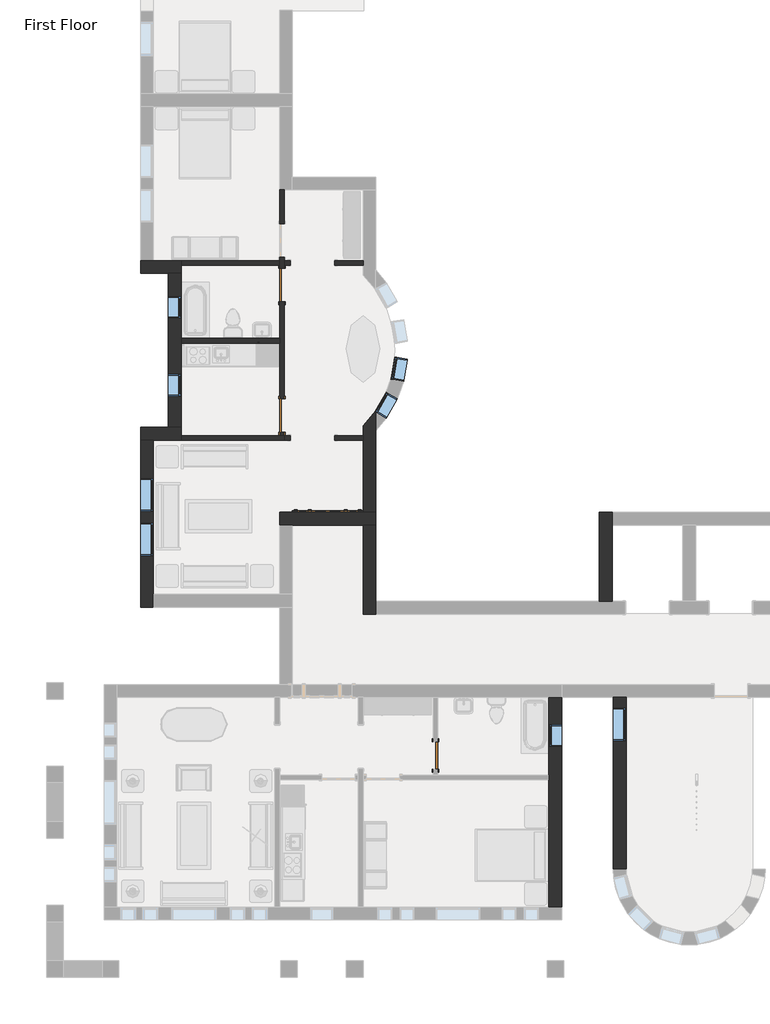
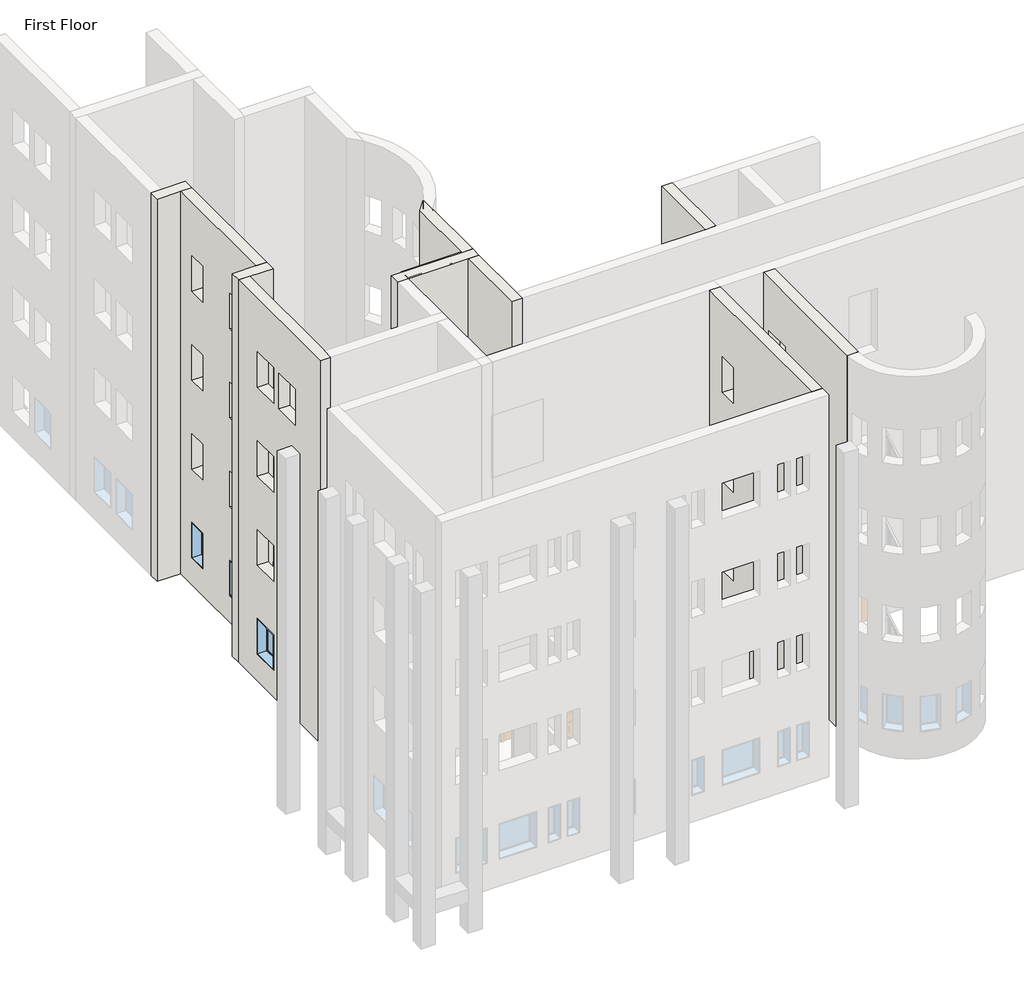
# One storey, part 4 of 21: 17 walls, 8 windows, 4 doors.
"""IFC4 building model written with IfcOpenShell, lengths in millimetres."""

from ifc_helpers import new_model, si_unit, frame, origin, origin_with_axes, place, context, project, spatial, polyline, circle_curve, outline, extrude, faceted_brep, transform, mapped, element, save
from ifc_brep_helpers import plane_surface, revolved_surface, advanced_brep
from components import door_4d6c7550, door_a1797ceb, door_a3eb833a, door_ffdb1193, window_60baf983, window_ed80354a, window_0e2fc6ce

model = new_model("IFC4")

# Units and contexts
model_context = context("Model", 3, world=origin())
ifc_project = project(units=[si_unit("LENGTHUNIT", "METRE", prefix="MILLI")], contexts=[model_context])

# Site, building, storey
site = spatial("IfcSite", under=ifc_project)
building = spatial("IfcBuilding", under=site)
storey = spatial("IfcBuildingStorey", under=building, Name="First Floor", Elevation=0.0)

# Doors
placement = place(None, origin())
door_shape = door_4d6c7550(model_context)
element("IfcDoor", 1, ObjectType="Single-Flush : 30\" x 84\"", at=placement, inside=storey, context=model_context, shape_type="MappedRepresentation", body=[
    mapped(door_shape, transform((-22018.5964563, -29804.8308133, 0.0), x_axis=(0.0, -1.0, 0.0), y_axis=(1.0, 0.0, 0.0), z_axis=(0.0, 0.0, 1.0))),
])
door_2_shape = door_a1797ceb(model_context)
element("IfcDoor", 2, ObjectType="Single-Flush : 36\" x 84\"", at=placement, inside=storey, context=model_context, shape_type="MappedRepresentation", body=[
    mapped(door_2_shape, transform((-26223.8839563, -16914.3308133, 0.0), x_axis=(0.0, 1.0, 0.0), y_axis=(-1.0, 0.0, 0.0), z_axis=(0.0, 0.0, 1.0))),
])
door_3_shape = door_a3eb833a(model_context)
element("IfcDoor", 3, ObjectType="Single-Flush : 36\" x 84\"", at=placement, inside=storey, context=model_context, shape_type="MappedRepresentation", body=[
    mapped(door_3_shape, transform((-26223.8839563, -20492.5558133, 0.0), x_axis=(0.0, -1.0, 0.0), y_axis=(1.0, 0.0, 0.0), z_axis=(0.0, 0.0, 1.0))),
])
door_4_shape = door_ffdb1193(model_context)
element("IfcDoor", 4, ObjectType="Single-Raised Panel with Sidelights : 36\" x 84\"", at=placement, inside=storey, context=model_context, shape_type="MappedRepresentation", body=[
    mapped(door_4_shape, transform((-24968.1714563, -23275.4433133, 0.0), x_axis=(1.0, 0.0, 0.0), y_axis=(0.0, 1.0, 0.0), z_axis=(0.0, 0.0, 1.0))),
])

# Walls
element("IfcWall", 5, ObjectType="Exterior - Brick on Mtl. Stud", at=placement, inside=storey, context=model_context, shape_type="Brep", body=[
    faceted_brep([(-17171.9589563, -25578.9058133, 0.0), (-17171.9589563, -23492.9308133, 0.0), (-17171.9589563, -23140.5058133, 0.0), (-17171.9589563, -23140.5058133, 13106.4), (-17171.9589563, -23492.9308133, 13106.4), (-17171.9589563, -25578.9058133, 13106.4), (-17524.3839563, -25578.9058133, 0.0), (-17524.3839563, -25578.9058133, 13106.4), (-17524.3839563, -23140.5058133, 13106.4), (-17524.3839563, -23140.5058133, 0.0)], [[[0, 1, 2, 3, 4, 5]], [[6, 7, 8, 9]], [[2, 1, 0, 6, 9]], [[5, 4, 3, 8, 7]], [[3, 2, 9, 8]], [[0, 5, 7, 6]]]),
])
element("IfcWall", 6, ObjectType="Exterior - Brick on Mtl. Stud", at=placement, inside=storey, context=model_context, shape_type="SweptSolid", body=[
    extrude(outline(polyline([(-28217.3308133, 0.0), (-32917.9183133, 0.0), (-32917.9183133, 13106.4), (-28217.3308133, 13106.4), (-28217.3308133, 0.0)]), holes=[polyline([(-28498.3183133, 8229.6), (-29412.7183133, 8229.6), (-29412.7183133, 7010.4), (-28498.3183133, 7010.4), (-28498.3183133, 8229.6)]), polyline([(-28498.3183133, 5181.6), (-29412.7183133, 5181.6), (-29412.7183133, 3962.4), (-28498.3183133, 3962.4), (-28498.3183133, 5181.6)]), polyline([(-28498.3183133, 11277.6), (-29412.7183133, 11277.6), (-29412.7183133, 10058.4), (-28498.3183133, 10058.4), (-28498.3183133, 11277.6)]), polyline([(-28498.3183133, 2133.6), (-29412.7183133, 2133.6), (-29412.7183133, 914.4), (-28498.3183133, 914.4), (-28498.3183133, 2133.6)])]), frame((-17143.3839563, 0.0, 0.0), z_axis=(1.0, 0.0, 0.0), x_axis=(0.0, 1.0, 0.0)), (0.0, 0.0, 1.0), 352.425),
])
element("IfcWall", 7, ObjectType="Exterior - Brick on Mtl. Stud", at=placement, inside=storey, context=model_context, shape_type="Brep", body=[
    faceted_brep([(-26287.3839563, -23492.9308133, 0.0), (-25934.9589563, -23492.9308133, 0.0), (-24001.3839563, -23492.9308133, 0.0), (-23648.9589563, -23492.9308133, 0.0), (-23648.9589563, -23492.9308133, 13106.4), (-24001.3839563, -23492.9308133, 13106.4), (-25934.9589563, -23492.9308133, 13106.4), (-26287.3839563, -23492.9308133, 13106.4), (-26287.3839563, -23140.5058133, 0.0), (-26287.3839563, -23140.5058133, 13106.4), (-24001.3839563, -23140.5058133, 13106.4), (-23648.9589563, -23140.5058133, 13106.4), (-23648.9589563, -23140.5058133, 0.0), (-24001.3839563, -23140.5058133, 0.0)], [[[0, 1, 2, 3, 4, 5, 6, 7]], [[8, 9, 10, 11, 12, 13]], [[3, 2, 1, 0, 8, 13, 12]], [[7, 6, 5, 4, 11, 10, 9]], [[4, 3, 12, 11]], [[0, 7, 9, 8]]]),
])
element("IfcWall", 8, ObjectType="Exterior - Brick on Mtl. Stud", at=placement, inside=storey, context=model_context, shape_type="Brep", body=[
    faceted_brep([(-23648.9589563, -25931.3308133, 0.0), (-23648.9589563, -25578.9058133, 0.0), (-23648.9589563, -23492.9308133, 0.0), (-23648.9589563, -23492.9308133, 13106.4), (-23648.9589563, -25578.9058133, 13106.4), (-23648.9589563, -25931.3308133, 13106.4), (-24001.3839563, -25931.3308133, 0.0), (-24001.3839563, -25931.3308133, 13106.4), (-24001.3839563, -23492.9308133, 13106.4), (-24001.3839563, -23492.9308133, 0.0)], [[[0, 1, 2, 3, 4, 5]], [[6, 7, 8, 9]], [[2, 1, 0, 6, 9]], [[5, 4, 3, 8, 7]], [[0, 5, 7, 6]], [[3, 2, 9, 8]]]),
])
element("IfcWall", 9, ObjectType="Exterior - Brick on Mtl. Stud", at=placement, inside=storey, context=model_context, shape_type="Brep", body=[
    faceted_brep([(-18907.0964563, -28217.3308133, 0.0), (-18907.0964563, -30350.9308133, 0.0), (-18907.0964563, -30477.9308133, 0.0), (-18907.0964563, -33960.9058133, 0.0), (-18907.0964563, -33960.9058133, 13106.4), (-18907.0964563, -28217.3308133, 13106.4), (-18907.0964563, -28955.5183133, 8229.6), (-18907.0964563, -29565.1183133, 8229.6), (-18907.0964563, -29565.1183133, 7010.4), (-18907.0964563, -28955.5183133, 7010.4), (-18907.0964563, -28955.5183133, 5181.6), (-18907.0964563, -29565.1183133, 5181.6), (-18907.0964563, -29565.1183133, 3962.4), (-18907.0964563, -28955.5183133, 3962.4), (-18907.0964563, -28955.5183133, 11277.6), (-18907.0964563, -29565.1183133, 11277.6), (-18907.0964563, -29565.1183133, 10058.4), (-18907.0964563, -28955.5183133, 10058.4), (-18907.0964563, -28955.5183133, 2133.6), (-18907.0964563, -29565.1183133, 2133.6), (-18907.0964563, -29565.1183133, 914.4), (-18907.0964563, -28955.5183133, 914.4), (-18554.6714563, -28217.3308133, 0.0), (-18554.6714563, -28217.3308133, 13106.4), (-18554.6714563, -33960.9058133, 13106.4), (-18554.6714563, -33960.9058133, 0.0), (-18554.6714563, -28955.5183133, 8229.6), (-18554.6714563, -28955.5183133, 7010.4), (-18554.6714563, -29565.1183133, 7010.4), (-18554.6714563, -29565.1183133, 8229.6), (-18554.6714563, -28955.5183133, 5181.6), (-18554.6714563, -28955.5183133, 3962.4), (-18554.6714563, -29565.1183133, 3962.4), (-18554.6714563, -29565.1183133, 5181.6), (-18554.6714563, -28955.5183133, 11277.6), (-18554.6714563, -28955.5183133, 10058.4), (-18554.6714563, -29565.1183133, 10058.4), (-18554.6714563, -29565.1183133, 11277.6), (-18554.6714563, -28955.5183133, 2133.6), (-18554.6714563, -28955.5183133, 914.4), (-18554.6714563, -29565.1183133, 914.4), (-18554.6714563, -29565.1183133, 2133.6), (-18741.9964563, -28217.3308133, 0.0), (-18741.9964563, -33960.9058133, 0.0)], [[[0, 1, 2, 3, 4, 5], [6, 7, 8, 9], [10, 11, 12, 13], [14, 15, 16, 17], [18, 19, 20, 21]], [[22, 23, 24, 25], [26, 27, 28, 29], [30, 31, 32, 33], [34, 35, 36, 37], [38, 39, 40, 41]], [[5, 4, 24, 23]], [[0, 5, 23, 22, 42]], [[4, 3, 43, 25, 24]], [[42, 22, 25, 43]], [[3, 2, 1, 0, 42, 43]], [[27, 26, 6, 9]], [[28, 27, 9, 8]], [[29, 28, 8, 7]], [[26, 29, 7, 6]], [[31, 30, 10, 13]], [[32, 31, 13, 12]], [[33, 32, 12, 11]], [[30, 33, 11, 10]], [[35, 34, 14, 17]], [[36, 35, 17, 16]], [[37, 36, 16, 15]], [[34, 37, 15, 14]], [[39, 38, 18, 21]], [[40, 39, 21, 20]], [[41, 40, 20, 19]], [[38, 41, 19, 18]]]),
])
element("IfcWall", 10, ObjectType="Exterior - Brick on Mtl. Stud", at=placement, inside=storey, context=model_context, shape_type="Brep", body=[
    faceted_brep([(-24129.9714563, -23451.6558133, 2133.6), (-24129.9714563, -23451.6558133, 0.0), (-24001.3839563, -23451.6558133, 0.0), (-24001.3839563, -23451.6558133, 13106.4), (-25934.9589563, -23451.6558133, 13106.4), (-25934.9589563, -23451.6558133, 0.0), (-25806.3714563, -23451.6558133, 0.0), (-25806.3714563, -23451.6558133, 2133.6), (-25806.3714563, -23451.6558133, 6096.0), (-25806.3714563, -23451.6558133, 8229.6), (-24129.9714563, -23451.6558133, 8229.6), (-24129.9714563, -23451.6558133, 6096.0), (-25806.3714563, -23451.6558133, 3048.0), (-25806.3714563, -23451.6558133, 5181.6), (-24129.9714563, -23451.6558133, 5181.6), (-24129.9714563, -23451.6558133, 3048.0), (-25806.3714563, -23451.6558133, 9144.0), (-25806.3714563, -23451.6558133, 11277.6), (-24129.9714563, -23451.6558133, 11277.6), (-24129.9714563, -23451.6558133, 9144.0), (-24001.3839563, -23099.2308133, 0.0), (-24129.9714563, -23099.2308133, 0.0), (-24129.9714563, -23099.2308133, 2133.6), (-25806.3714563, -23099.2308133, 2133.6), (-25806.3714563, -23099.2308133, 0.0), (-25934.9589563, -23099.2308133, 0.0), (-25934.9589563, -23099.2308133, 13106.4), (-24001.3839563, -23099.2308133, 13106.4), (-25806.3714563, -23099.2308133, 6096.0), (-24129.9714563, -23099.2308133, 6096.0), (-24129.9714563, -23099.2308133, 8229.6), (-25806.3714563, -23099.2308133, 8229.6), (-25806.3714563, -23099.2308133, 3048.0), (-24129.9714563, -23099.2308133, 3048.0), (-24129.9714563, -23099.2308133, 5181.6), (-25806.3714563, -23099.2308133, 5181.6), (-25806.3714563, -23099.2308133, 9144.0), (-24129.9714563, -23099.2308133, 9144.0), (-24129.9714563, -23099.2308133, 11277.6), (-25806.3714563, -23099.2308133, 11277.6), (-24001.3839563, -23140.5058133, 0.0), (-24001.3839563, -23140.5058133, 13106.4)], [[[0, 1, 2, 3, 4, 5, 6, 7], [8, 9, 10, 11], [12, 13, 14, 15], [16, 17, 18, 19]], [[20, 21, 22, 23, 24, 25, 26, 27], [28, 29, 30, 31], [32, 33, 34, 35], [36, 37, 38, 39]], [[2, 1, 21, 20, 40]], [[6, 5, 25, 24]], [[4, 3, 41, 27, 26]], [[3, 2, 40, 20, 27, 41]], [[5, 4, 26, 25]], [[22, 21, 1, 0]], [[23, 22, 0, 7]], [[24, 23, 7, 6]], [[29, 28, 8, 11]], [[30, 29, 11, 10]], [[31, 30, 10, 9]], [[28, 31, 9, 8]], [[33, 32, 12, 15]], [[34, 33, 15, 14]], [[35, 34, 14, 13]], [[32, 35, 13, 12]], [[37, 36, 16, 19]], [[38, 37, 19, 18]], [[39, 38, 18, 17]], [[36, 39, 17, 16]]]),
])
element("IfcWall", 11, ObjectType="Exterior - Brick on Mtl. Stud", at=placement, inside=storey, context=model_context, shape_type="AdvancedBrep", body=[
    advanced_brep(
    [(-23648.9589563, -23140.5058133, 0.0), (-23648.9589563, -20907.8285473, 0.0), (-23648.9589563, -20349.9339631, 0.0), (-23648.9589563, -20349.9339631, 914.4), (-23648.9589563, -20399.222211, 914.4), (-23648.9589563, -20399.222211, 2133.6), (-23648.9589563, -20349.9339631, 2133.6), (-23648.9589563, -20349.9339631, 3962.4), (-23648.9589563, -20399.222211, 3962.4), (-23648.9589563, -20399.222211, 5181.6), (-23648.9589563, -20349.9339631, 5181.6), (-23648.9589563, -20349.9339631, 7010.4), (-23648.9589563, -20399.222211, 7010.4), (-23648.9589563, -20399.222211, 8229.6), (-23648.9589563, -20349.9339631, 8229.6), (-23648.9589563, -20349.9339631, 10058.4), (-23648.9589563, -20399.222211, 10058.4), (-23648.9589563, -20399.222211, 11277.6), (-23648.9589563, -20349.9339631, 11277.6), (-23648.9589563, -20349.9339631, 13106.4), (-23648.9589563, -20907.8285473, 13106.4), (-23648.9589563, -23140.5058133, 13106.4), (-24001.3839563, -20763.827661, 0.0), (-24001.3839563, -21038.6558133, 0.0), (-24001.3839563, -21165.6558133, 0.0), (-24001.3839563, -23099.2308133, 0.0), (-24001.3839563, -23140.5058133, 0.0), (-24001.3839563, -23140.5058133, 13106.4), (-24001.3839563, -23099.2308133, 13106.4), (-24001.3839563, -20763.827661, 13106.4), (-23654.428547, -20357.7227821, 11277.6), (-23654.428547, -20357.7227821, 10058.4), (-23654.428547, -20357.7227821, 8229.6), (-23654.428547, -20357.7227821, 7010.4), (-23654.428547, -20357.7227821, 5181.6), (-23654.428547, -20357.7227821, 3962.4), (-23654.428547, -20357.7227821, 2133.6), (-23654.428547, -20357.7227821, 914.4), (-23670.9598455, -20386.6485215, 2133.6), (-23670.9598455, -20386.6485215, 914.4), (-23670.9598455, -20386.6485215, 11277.6), (-23670.9598455, -20386.6485215, 10058.4), (-23670.9598455, -20386.6485215, 5181.6), (-23670.9598455, -20386.6485215, 3962.4), (-23670.9598455, -20386.6485215, 8229.6), (-23670.9598455, -20386.6485215, 7010.4)],
    [
        (0, 1),
        (1, 2),
        (2, 3),
        (3, 4),
        (4, 5),
        (5, 6),
        (6, 7),
        (7, 8),
        (8, 9),
        (9, 10),
        (10, 11),
        (11, 12),
        (12, 13),
        (13, 14),
        (14, 15),
        (15, 16),
        (16, 17),
        (17, 18),
        (18, 19),
        (19, 20),
        (20, 21),
        (21, 0),
        (22, 23),
        (23, 24),
        (24, 25),
        (25, 26),
        (26, 27),
        (27, 28),
        (28, 29),
        (29, 22),
        (0, 26),
        (22, 2, circle_curve(frame((-26001.8788413, -18703.4433133, 0.0), z_axis=(0.0, 0.0, 1.0), x_axis=(0.0, -1.0, 0.0)), 2871.7875)),
        (19, 29, circle_curve(frame((-26001.8788413, -18703.4433133, 13106.4), z_axis=(0.0, 0.0, -1.0), x_axis=(0.0, -1.0, 0.0)), 2871.7875)),
        (27, 21),
        (18, 30, circle_curve(frame((-26001.8788413, -18703.4433133, 11277.6), z_axis=(0.0, 0.0, -1.0), x_axis=(0.0, -1.0, 0.0)), 2871.7875)),
        (30, 31),
        (31, 15, circle_curve(frame((-26001.8788413, -18703.4433133, 10058.4), z_axis=(0.0, 0.0, 1.0), x_axis=(0.0, -1.0, 0.0)), 2871.7875)),
        (14, 32, circle_curve(frame((-26001.8788413, -18703.4433133, 8229.6), z_axis=(0.0, 0.0, -1.0), x_axis=(0.0, -1.0, 0.0)), 2871.7875)),
        (32, 33),
        (33, 11, circle_curve(frame((-26001.8788413, -18703.4433133, 7010.4), z_axis=(0.0, 0.0, 1.0), x_axis=(0.0, -1.0, 0.0)), 2871.7875)),
        (10, 34, circle_curve(frame((-26001.8788413, -18703.4433133, 5181.6), z_axis=(0.0, 0.0, -1.0), x_axis=(0.0, -1.0, 0.0)), 2871.7875)),
        (34, 35),
        (35, 7, circle_curve(frame((-26001.8788413, -18703.4433133, 3962.4), z_axis=(0.0, 0.0, 1.0), x_axis=(0.0, -1.0, 0.0)), 2871.7875)),
        (6, 36, circle_curve(frame((-26001.8788413, -18703.4433133, 2133.6), z_axis=(0.0, 0.0, -1.0), x_axis=(0.0, -1.0, 0.0)), 2871.7875)),
        (36, 37),
        (37, 3, circle_curve(frame((-26001.8788413, -18703.4433133, 914.4), z_axis=(0.0, 0.0, 1.0), x_axis=(0.0, -1.0, 0.0)), 2871.7875)),
        (38, 39),
        (39, 37),
        (36, 38),
        (39, 4),
        (38, 5),
        (40, 41),
        (41, 31),
        (30, 40),
        (41, 16),
        (40, 17),
        (42, 43),
        (43, 35),
        (34, 42),
        (43, 8),
        (42, 9),
        (44, 45),
        (45, 33),
        (32, 44),
        (45, 12),
        (44, 13),
    ],
    [
        plane_surface(frame((-23648.9589563, -23275.4433133, 0.0), z_axis=(1.0, 0.0, 0.0), x_axis=(0.0, 1.0, 0.0))),
        plane_surface(frame((-24001.3839563, -23275.4433133, 0.0), z_axis=(-1.0, 0.0, 0.0), x_axis=(0.0, -1.0, 0.0))),
        plane_surface(frame((-23648.9589563, -23296.0808133, 0.0), z_axis=(0.0, 0.0, -1.0), x_axis=(-1.0, 0.0, 0.0))),
        plane_surface(frame((-23648.9589563, -20837.0433133, 13106.4), z_axis=(0.0, 0.0, 1.0), x_axis=(-1.0, 0.0, 0.0))),
        revolved_surface(polyline([(-26001.8788413, -21575.230813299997, 0.0), (-26001.8788413, -21575.230813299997, 13106.4)]), (-26001.8788413, -18703.4433133, 0.0), (0.0, 0.0, -1.0)),
        plane_surface(frame((-26111.1714563, -23140.5058133, 0.0), z_axis=(0.0, -1.0, 0.0), x_axis=(-1.0, 0.0, 0.0))),
        plane_surface(frame((-23368.4817613, -19857.3856675, 2133.6), z_axis=(0.8682133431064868, -0.49619108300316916, 0.0), x_axis=(0.0, 0.0, -1.0))),
        plane_surface(frame((-23368.4817613, -19857.3856675, 914.4), z_axis=(0.0, 0.0, 1.0), x_axis=(0.8682133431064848, -0.4961910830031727, 0.0))),
        plane_surface(frame((-23670.9598455, -20386.6485215, 914.4), z_axis=(0.4961910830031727, 0.8682133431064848, 0.0), x_axis=(0.8682133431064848, -0.4961910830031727, 0.0))),
        plane_surface(frame((-23670.9598455, -20386.6485215, 2133.6), z_axis=(0.0, 0.0, -1.0), x_axis=(0.8682133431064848, -0.4961910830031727, 0.0))),
        plane_surface(frame((-23368.4817613, -19857.3856675, 11277.6), z_axis=(0.8682133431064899, -0.49619108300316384, 0.0), x_axis=(0.0, 0.0, -1.0))),
        plane_surface(frame((-23368.4817613, -19857.3856675, 10058.4), z_axis=(0.0, 0.0, 1.0), x_axis=(0.8682133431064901, -0.49619108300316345, 0.0))),
        plane_surface(frame((-23670.9598455, -20386.6485215, 10058.4), z_axis=(0.49619108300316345, 0.8682133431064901, 0.0), x_axis=(0.8682133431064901, -0.49619108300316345, 0.0))),
        plane_surface(frame((-23670.9598455, -20386.6485215, 11277.6), z_axis=(0.0, 0.0, -1.0), x_axis=(0.8682133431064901, -0.49619108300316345, 0.0))),
        plane_surface(frame((-23368.4817613, -19857.3856675, 5181.6), z_axis=(0.8682133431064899, -0.49619108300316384, 0.0), x_axis=(0.0, 0.0, -1.0))),
        plane_surface(frame((-23368.4817613, -19857.3856675, 3962.4), z_axis=(0.0, 0.0, 1.0), x_axis=(0.8682133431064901, -0.49619108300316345, 0.0))),
        plane_surface(frame((-23670.9598455, -20386.6485215, 3962.4), z_axis=(0.49619108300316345, 0.8682133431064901, 0.0), x_axis=(0.8682133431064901, -0.49619108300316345, 0.0))),
        plane_surface(frame((-23670.9598455, -20386.6485215, 5181.6), z_axis=(0.0, 0.0, -1.0), x_axis=(0.8682133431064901, -0.49619108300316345, 0.0))),
        plane_surface(frame((-23368.4817613, -19857.3856675, 8229.6), z_axis=(0.8682133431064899, -0.49619108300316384, 0.0), x_axis=(0.0, 0.0, -1.0))),
        plane_surface(frame((-23368.4817613, -19857.3856675, 7010.4), z_axis=(0.0, 0.0, 1.0), x_axis=(0.8682133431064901, -0.49619108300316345, 0.0))),
        plane_surface(frame((-23670.9598455, -20386.6485215, 7010.4), z_axis=(0.49619108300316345, 0.8682133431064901, 0.0), x_axis=(0.8682133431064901, -0.49619108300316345, 0.0))),
        plane_surface(frame((-23670.9598455, -20386.6485215, 8229.6), z_axis=(0.0, 0.0, -1.0), x_axis=(0.8682133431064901, -0.49619108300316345, 0.0))),
    ],
    [
        (0, [[1, 2, 3, 4, 5, 6, 7, 8, 9, 10, 11, 12, 13, 14, 15, 16, 17, 18, 19, 20, 21, 22]]),
        (1, [[23, 24, 25, 26, 27, 28, 29, 30]]),
        (2, [[-2, -1, 31, -26, -25, -24, -23, 32]]),
        (3, [[-21, -20, 33, -29, -28, 34]]),
        (4, [[-32, -30, -33, -19, 35, 36, 37, -15, 38, 39, 40, -11, 41, 42, 43, -7, 44, 45, 46, -3]]),
        (5, [[-22, -34, -27, -31]]),
        (6, [[47, 48, -45, 49]]),
        (7, [[50, -4, -46, -48]]),
        (8, [[-47, 51, -5, -50]]),
        (9, [[-51, -49, -44, -6]]),
        (10, [[52, 53, -36, 54]]),
        (11, [[55, -16, -37, -53]]),
        (12, [[-52, 56, -17, -55]]),
        (13, [[-56, -54, -35, -18]]),
        (14, [[57, 58, -42, 59]]),
        (15, [[60, -8, -43, -58]]),
        (16, [[-57, 61, -9, -60]]),
        (17, [[-61, -59, -41, -10]]),
        (18, [[62, 63, -39, 64]]),
        (19, [[65, -12, -40, -63]]),
        (20, [[-62, 66, -13, -65]]),
        (21, [[-66, -64, -38, -14]]),
    ],
),
])
element("IfcWall", 12, ObjectType="Exterior - Brick on Mtl. Stud", at=placement, inside=storey, context=model_context, shape_type="Brep", body=[
    faceted_brep([(-30097.3839563, -16593.6558133, 0.0), (-29335.3839563, -16593.6558133, 0.0), (-28982.9589563, -16593.6558133, 0.0), (-28982.9589563, -16593.6558133, 13106.4), (-29335.3839563, -16593.6558133, 13106.4), (-30097.3839563, -16593.6558133, 13106.4), (-30097.3839563, -16241.2308133, 0.0), (-30097.3839563, -16241.2308133, 13106.4), (-29744.9589563, -16241.2308133, 13106.4), (-28982.9589563, -16241.2308133, 13106.4), (-28982.9589563, -16241.2308133, 3048.0), (-28982.9589563, -16241.2308133, 0.0), (-29744.9589563, -16241.2308133, 0.0), (-28982.9589563, -16368.2308133, 0.0)], [[[0, 1, 2, 3, 4, 5]], [[6, 7, 8, 9, 10, 11, 12]], [[2, 1, 0, 6, 12, 11, 13]], [[5, 4, 3, 9, 8, 7]], [[0, 5, 7, 6]], [[2, 13, 11, 10, 9, 3]]]),
])
element("IfcWall", 13, ObjectType="Exterior - Brick on Mtl. Stud", at=placement, inside=storey, context=model_context, shape_type="Brep", body=[
    faceted_brep([(-29335.3839563, -16593.6558133, 0.0), (-29335.3839563, -20813.2308133, 0.0), (-29335.3839563, -20813.2308133, 13106.4), (-29335.3839563, -16593.6558133, 13106.4), (-29335.3839563, -17219.1308133, 8229.6), (-29335.3839563, -17828.7308133, 8229.6), (-29335.3839563, -17828.7308133, 7010.4), (-29335.3839563, -17219.1308133, 7010.4), (-29335.3839563, -19352.7308133, 8229.6), (-29335.3839563, -19962.3308133, 8229.6), (-29335.3839563, -19962.3308133, 7010.4), (-29335.3839563, -19352.7308133, 7010.4), (-29335.3839563, -17219.1308133, 5181.6), (-29335.3839563, -17828.7308133, 5181.6), (-29335.3839563, -17828.7308133, 3962.4), (-29335.3839563, -17219.1308133, 3962.4), (-29335.3839563, -19352.7308133, 5181.6), (-29335.3839563, -19962.3308133, 5181.6), (-29335.3839563, -19962.3308133, 3962.4), (-29335.3839563, -19352.7308133, 3962.4), (-29335.3839563, -17219.1308133, 11277.6), (-29335.3839563, -17828.7308133, 11277.6), (-29335.3839563, -17828.7308133, 10058.4), (-29335.3839563, -17219.1308133, 10058.4), (-29335.3839563, -19352.7308133, 11277.6), (-29335.3839563, -19962.3308133, 11277.6), (-29335.3839563, -19962.3308133, 10058.4), (-29335.3839563, -19352.7308133, 10058.4), (-29335.3839563, -17219.1308133, 2133.6), (-29335.3839563, -17828.7308133, 2133.6), (-29335.3839563, -17828.7308133, 914.4), (-29335.3839563, -17219.1308133, 914.4), (-29335.3839563, -19352.7308133, 2133.6), (-29335.3839563, -19962.3308133, 2133.6), (-29335.3839563, -19962.3308133, 914.4), (-29335.3839563, -19352.7308133, 914.4), (-28982.9589563, -16593.6558133, 0.0), (-28982.9589563, -16593.6558133, 13106.4), (-28982.9589563, -20813.2308133, 13106.4), (-28982.9589563, -20813.2308133, 0.0), (-28982.9589563, -18501.8308133, 0.0), (-28982.9589563, -18374.8308133, 0.0), (-28982.9589563, -17219.1308133, 8229.6), (-28982.9589563, -17219.1308133, 7010.4), (-28982.9589563, -17828.7308133, 7010.4), (-28982.9589563, -17828.7308133, 8229.6), (-28982.9589563, -19352.7308133, 8229.6), (-28982.9589563, -19352.7308133, 7010.4), (-28982.9589563, -19962.3308133, 7010.4), (-28982.9589563, -19962.3308133, 8229.6), (-28982.9589563, -17219.1308133, 5181.6), (-28982.9589563, -17219.1308133, 3962.4), (-28982.9589563, -17828.7308133, 3962.4), (-28982.9589563, -17828.7308133, 5181.6), (-28982.9589563, -19352.7308133, 5181.6), (-28982.9589563, -19352.7308133, 3962.4), (-28982.9589563, -19962.3308133, 3962.4), (-28982.9589563, -19962.3308133, 5181.6), (-28982.9589563, -17219.1308133, 11277.6), (-28982.9589563, -17219.1308133, 10058.4), (-28982.9589563, -17828.7308133, 10058.4), (-28982.9589563, -17828.7308133, 11277.6), (-28982.9589563, -19352.7308133, 11277.6), (-28982.9589563, -19352.7308133, 10058.4), (-28982.9589563, -19962.3308133, 10058.4), (-28982.9589563, -19962.3308133, 11277.6), (-28982.9589563, -17219.1308133, 2133.6), (-28982.9589563, -17219.1308133, 914.4), (-28982.9589563, -17828.7308133, 914.4), (-28982.9589563, -17828.7308133, 2133.6), (-28982.9589563, -19352.7308133, 2133.6), (-28982.9589563, -19352.7308133, 914.4), (-28982.9589563, -19962.3308133, 914.4), (-28982.9589563, -19962.3308133, 2133.6)], [[[0, 1, 2, 3], [4, 5, 6, 7], [8, 9, 10, 11], [12, 13, 14, 15], [16, 17, 18, 19], [20, 21, 22, 23], [24, 25, 26, 27], [28, 29, 30, 31], [32, 33, 34, 35]], [[36, 37, 38, 39, 40, 41], [42, 43, 44, 45], [46, 47, 48, 49], [50, 51, 52, 53], [54, 55, 56, 57], [58, 59, 60, 61], [62, 63, 64, 65], [66, 67, 68, 69], [70, 71, 72, 73]], [[1, 0, 36, 41, 40, 39]], [[3, 2, 38, 37]], [[0, 3, 37, 36]], [[2, 1, 39, 38]], [[43, 42, 4, 7]], [[44, 43, 7, 6]], [[45, 44, 6, 5]], [[42, 45, 5, 4]], [[47, 46, 8, 11]], [[48, 47, 11, 10]], [[49, 48, 10, 9]], [[46, 49, 9, 8]], [[51, 50, 12, 15]], [[52, 51, 15, 14]], [[53, 52, 14, 13]], [[50, 53, 13, 12]], [[55, 54, 16, 19]], [[56, 55, 19, 18]], [[57, 56, 18, 17]], [[54, 57, 17, 16]], [[59, 58, 20, 23]], [[60, 59, 23, 22]], [[61, 60, 22, 21]], [[58, 61, 21, 20]], [[63, 62, 24, 27]], [[64, 63, 27, 26]], [[65, 64, 26, 25]], [[62, 65, 25, 24]], [[67, 66, 28, 31]], [[68, 67, 31, 30]], [[69, 68, 30, 29]], [[66, 69, 29, 28]], [[71, 70, 32, 35]], [[72, 71, 35, 34]], [[73, 72, 34, 33]], [[70, 73, 33, 32]]]),
])
element("IfcWall", 14, ObjectType="Exterior - Brick on Mtl. Stud", at=placement, inside=storey, context=model_context, shape_type="Brep", body=[
    faceted_brep([(-28982.9589563, -20813.2308133, 13106.4), (-28982.9589563, -20813.2308133, 0.0), (-29335.3839563, -20813.2308133, 0.0), (-30097.3839563, -20813.2308133, 0.0), (-30097.3839563, -20813.2308133, 13106.4), (-29335.3839563, -20813.2308133, 13106.4), (-28982.9589563, -21165.6558133, 0.0), (-28982.9589563, -21165.6558133, 3048.0), (-28982.9589563, -21165.6558133, 13106.4), (-29744.9589563, -21165.6558133, 13106.4), (-30097.3839563, -21165.6558133, 13106.4), (-30097.3839563, -21165.6558133, 0.0), (-29744.9589563, -21165.6558133, 0.0), (-28982.9589563, -21038.6558133, 0.0)], [[[0, 1, 2, 3, 4, 5]], [[6, 7, 8, 9, 10, 11, 12]], [[3, 2, 1, 13, 6, 12, 11]], [[0, 5, 4, 10, 9, 8]], [[0, 8, 7, 6, 13, 1]], [[4, 3, 11, 10]]]),
])
element("IfcWall", 15, ObjectType="Exterior - Brick on Mtl. Stud", at=placement, inside=storey, context=model_context, shape_type="Brep", body=[
    faceted_brep([(-30097.3839563, -21165.6558133, 0.0), (-30097.3839563, -25737.6558133, 0.0), (-30097.3839563, -25737.6558133, 13106.4), (-30097.3839563, -21165.6558133, 13106.4), (-30097.3839563, -22208.6433133, 8229.6), (-30097.3839563, -23123.0433133, 8229.6), (-30097.3839563, -23123.0433133, 7010.4), (-30097.3839563, -22208.6433133, 7010.4), (-30097.3839563, -23427.8433133, 8229.6), (-30097.3839563, -24342.2433133, 8229.6), (-30097.3839563, -24342.2433133, 7010.4), (-30097.3839563, -23427.8433133, 7010.4), (-30097.3839563, -22208.6433133, 5181.6), (-30097.3839563, -23123.0433133, 5181.6), (-30097.3839563, -23123.0433133, 3962.4), (-30097.3839563, -22208.6433133, 3962.4), (-30097.3839563, -23427.8433133, 5181.6), (-30097.3839563, -24342.2433133, 5181.6), (-30097.3839563, -24342.2433133, 3962.4), (-30097.3839563, -23427.8433133, 3962.4), (-30097.3839563, -22208.6433133, 11277.6), (-30097.3839563, -23123.0433133, 11277.6), (-30097.3839563, -23123.0433133, 10058.4), (-30097.3839563, -22208.6433133, 10058.4), (-30097.3839563, -23427.8433133, 11277.6), (-30097.3839563, -24342.2433133, 11277.6), (-30097.3839563, -24342.2433133, 10058.4), (-30097.3839563, -23427.8433133, 10058.4), (-30097.3839563, -22208.6433133, 2133.6), (-30097.3839563, -23123.0433133, 2133.6), (-30097.3839563, -23123.0433133, 914.4), (-30097.3839563, -22208.6433133, 914.4), (-30097.3839563, -23427.8433133, 2133.6), (-30097.3839563, -24342.2433133, 2133.6), (-30097.3839563, -24342.2433133, 914.4), (-30097.3839563, -23427.8433133, 914.4), (-29744.9589563, -21165.6558133, 0.0), (-29744.9589563, -21165.6558133, 13106.4), (-29744.9589563, -25385.2308133, 13106.4), (-29744.9589563, -25737.6558133, 13106.4), (-29744.9589563, -25737.6558133, 0.0), (-29744.9589563, -25385.2308133, 0.0), (-29744.9589563, -22208.6433133, 8229.6), (-29744.9589563, -22208.6433133, 7010.4), (-29744.9589563, -23123.0433133, 7010.4), (-29744.9589563, -23123.0433133, 8229.6), (-29744.9589563, -23427.8433133, 8229.6), (-29744.9589563, -23427.8433133, 7010.4), (-29744.9589563, -24342.2433133, 7010.4), (-29744.9589563, -24342.2433133, 8229.6), (-29744.9589563, -22208.6433133, 5181.6), (-29744.9589563, -22208.6433133, 3962.4), (-29744.9589563, -23123.0433133, 3962.4), (-29744.9589563, -23123.0433133, 5181.6), (-29744.9589563, -23427.8433133, 5181.6), (-29744.9589563, -23427.8433133, 3962.4), (-29744.9589563, -24342.2433133, 3962.4), (-29744.9589563, -24342.2433133, 5181.6), (-29744.9589563, -22208.6433133, 11277.6), (-29744.9589563, -22208.6433133, 10058.4), (-29744.9589563, -23123.0433133, 10058.4), (-29744.9589563, -23123.0433133, 11277.6), (-29744.9589563, -23427.8433133, 11277.6), (-29744.9589563, -23427.8433133, 10058.4), (-29744.9589563, -24342.2433133, 10058.4), (-29744.9589563, -24342.2433133, 11277.6), (-29744.9589563, -22208.6433133, 2133.6), (-29744.9589563, -22208.6433133, 914.4), (-29744.9589563, -23123.0433133, 914.4), (-29744.9589563, -23123.0433133, 2133.6), (-29744.9589563, -23427.8433133, 2133.6), (-29744.9589563, -23427.8433133, 914.4), (-29744.9589563, -24342.2433133, 914.4), (-29744.9589563, -24342.2433133, 2133.6)], [[[0, 1, 2, 3], [4, 5, 6, 7], [8, 9, 10, 11], [12, 13, 14, 15], [16, 17, 18, 19], [20, 21, 22, 23], [24, 25, 26, 27], [28, 29, 30, 31], [32, 33, 34, 35]], [[36, 37, 38, 39, 40, 41], [42, 43, 44, 45], [46, 47, 48, 49], [50, 51, 52, 53], [54, 55, 56, 57], [58, 59, 60, 61], [62, 63, 64, 65], [66, 67, 68, 69], [70, 71, 72, 73]], [[1, 0, 36, 41, 40]], [[3, 2, 39, 38, 37]], [[2, 1, 40, 39]], [[0, 3, 37, 36]], [[43, 42, 4, 7]], [[44, 43, 7, 6]], [[45, 44, 6, 5]], [[42, 45, 5, 4]], [[47, 46, 8, 11]], [[48, 47, 11, 10]], [[49, 48, 10, 9]], [[46, 49, 9, 8]], [[51, 50, 12, 15]], [[52, 51, 15, 14]], [[53, 52, 14, 13]], [[50, 53, 13, 12]], [[55, 54, 16, 19]], [[56, 55, 19, 18]], [[57, 56, 18, 17]], [[54, 57, 17, 16]], [[59, 58, 20, 23]], [[60, 59, 23, 22]], [[61, 60, 22, 21]], [[58, 61, 21, 20]], [[63, 62, 24, 27]], [[64, 63, 27, 26]], [[65, 64, 26, 25]], [[62, 65, 25, 24]], [[67, 66, 28, 31]], [[68, 67, 31, 30]], [[69, 68, 30, 29]], [[66, 69, 29, 28]], [[71, 70, 32, 35]], [[72, 71, 35, 34]], [[73, 72, 34, 33]], [[70, 73, 33, 32]]]),
])
element("IfcWall", 16, ObjectType="Interior - 5\" Partition (2-hr)", at=placement, inside=storey, context=model_context, shape_type="Brep", body=[
    faceted_brep([(-28982.9589563, -21165.6558133, 0.0), (-26160.3839563, -21165.6558133, 0.0), (-26160.3839563, -21165.6558133, 3048.0), (-28982.9589563, -21165.6558133, 3048.0), (-28982.9589563, -21038.6558133, 0.0), (-28982.9589563, -21038.6558133, 3048.0), (-26287.3839563, -21038.6558133, 3048.0), (-26160.3839563, -21038.6558133, 3048.0), (-26160.3839563, -21038.6558133, 0.0), (-26287.3839563, -21038.6558133, 0.0)], [[[0, 1, 2, 3]], [[4, 5, 6, 7, 8, 9]], [[1, 0, 4, 9, 8]], [[3, 2, 7, 6, 5]], [[2, 1, 8, 7]], [[0, 3, 5, 4]]]),
])
element("IfcWall", 17, ObjectType="Interior - 5\" Partition (2-hr)", at=placement, inside=storey, context=model_context, shape_type="Brep", body=[
    faceted_brep([(-26287.3839563, -16152.3308133, 2133.6), (-26287.3839563, -16152.3308133, 0.0), (-26287.3839563, -16241.2308133, 0.0), (-26287.3839563, -16368.2308133, 0.0), (-26287.3839563, -16457.1308133, 0.0), (-26287.3839563, -16457.1308133, 2133.6), (-26287.3839563, -17371.5308133, 2133.6), (-26287.3839563, -17371.5308133, 0.0), (-26287.3839563, -18374.8308133, 0.0), (-26287.3839563, -18501.8308133, 0.0), (-26287.3839563, -20035.3558133, 0.0), (-26287.3839563, -20035.3558133, 2133.6), (-26287.3839563, -20949.7558133, 2133.6), (-26287.3839563, -20949.7558133, 0.0), (-26287.3839563, -21038.6558133, 0.0), (-26287.3839563, -21038.6558133, 3048.0), (-26287.3839563, -18501.8308133, 3048.0), (-26287.3839563, -18374.8308133, 3048.0), (-26287.3839563, -16368.2308133, 3048.0), (-26287.3839563, -16241.2308133, 3048.0), (-26287.3839563, -14307.6558133, 3048.0), (-26287.3839563, -14307.6558133, 0.0), (-26287.3839563, -15237.9308133, 0.0), (-26287.3839563, -15237.9308133, 2133.6), (-26160.3839563, -16457.1308133, 0.0), (-26160.3839563, -16368.2308133, 0.0), (-26160.3839563, -16241.2308133, 0.0), (-26160.3839563, -16152.3308133, 0.0), (-26160.3839563, -16152.3308133, 2133.6), (-26160.3839563, -15237.9308133, 2133.6), (-26160.3839563, -15237.9308133, 0.0), (-26160.3839563, -14307.6558133, 0.0), (-26160.3839563, -14307.6558133, 3048.0), (-26160.3839563, -16241.2308133, 3048.0), (-26160.3839563, -16368.2308133, 3048.0), (-26160.3839563, -21038.6558133, 3048.0), (-26160.3839563, -21038.6558133, 0.0), (-26160.3839563, -20949.7558133, 0.0), (-26160.3839563, -20949.7558133, 2133.6), (-26160.3839563, -20035.3558133, 2133.6), (-26160.3839563, -20035.3558133, 0.0), (-26160.3839563, -17371.5308133, 0.0), (-26160.3839563, -17371.5308133, 2133.6), (-26160.3839563, -16457.1308133, 2133.6)], [[[0, 1, 2, 3, 4, 5, 6, 7, 8, 9, 10, 11, 12, 13, 14, 15, 16, 17, 18, 19, 20, 21, 22, 23]], [[24, 25, 26, 27, 28, 29, 30, 31, 32, 33, 34, 35, 36, 37, 38, 39, 40, 41, 42, 43]], [[14, 13, 37, 36]], [[4, 3, 2, 1, 27, 26, 25, 24]], [[41, 40, 10, 9, 8, 7]], [[22, 21, 31, 30]], [[20, 19, 18, 17, 16, 15, 35, 34, 33, 32]], [[21, 20, 32, 31]], [[15, 14, 36, 35]], [[38, 37, 13, 12]], [[39, 38, 12, 11]], [[40, 39, 11, 10]], [[5, 4, 24, 43]], [[6, 5, 43, 42]], [[7, 6, 42, 41]], [[28, 27, 1, 0]], [[29, 28, 0, 23]], [[30, 29, 23, 22]]]),
])
element("IfcWall", 18, ObjectType="Interior - 5\" Partition (2-hr)", at=placement, inside=storey, context=model_context, shape_type="SweptSolid", body=[
    extrude(outline(polyline([(-26287.3839563, -16368.2308133), (-28982.9589563, -16368.2308133), (-28982.9589563, -16241.2308133), (-26287.3839563, -16241.2308133), (-26287.3839563, -16368.2308133)])), origin_with_axes(), (0.0, 0.0, 1.0), 3048.0),
])
element("IfcWall", 19, ObjectType="Interior - 5\" Partition (2-hr)", at=placement, inside=storey, context=model_context, shape_type="SweptSolid", body=[
    extrude(outline(polyline([(-28982.9589563, -18374.8308133), (-26287.3839563, -18374.8308133), (-26287.3839563, -18501.8308133), (-28982.9589563, -18501.8308133), (-28982.9589563, -18374.8308133)])), origin_with_axes(), (0.0, 0.0, 1.0), 3048.0),
])
element("IfcWall", 20, ObjectType="Interior - 5\" Partition (2-hr)", at=placement, inside=storey, context=model_context, shape_type="SweptSolid", body=[
    extrude(outline(polyline([(2133.6, -24776.0839563), (0.0, -24776.0839563), (0.0, -24001.3839563), (3048.0, -24001.3839563), (3048.0, -26160.3839563), (0.0, -26160.3839563), (0.0, -25995.2839563), (2133.6, -25995.2839563), (2133.6, -24776.0839563)])), frame((0.0, -16368.2308133, 0.0), z_axis=(0.0, 1.0, 0.0), x_axis=(0.0, 0.0, 1.0)), (0.0, 0.0, 1.0), 127.0),
])
element("IfcWall", 21, ObjectType="Interior - 5\" Partition (2-hr)", at=placement, inside=storey, context=model_context, shape_type="SweptSolid", body=[
    extrude(outline(polyline([(0.0, -26160.3839563), (0.0, -25995.2839563), (2133.6, -25995.2839563), (2133.6, -24776.0839563), (0.0, -24776.0839563), (0.0, -24001.3839563), (3048.0, -24001.3839563), (3048.0, -26160.3839563), (0.0, -26160.3839563)])), frame((0.0, -21165.6558133, 0.0), z_axis=(0.0, 1.0, 0.0), x_axis=(0.0, 0.0, 1.0)), (0.0, 0.0, 1.0), 127.0),
])

# Windows
window_shape = window_60baf983(model_context)
element("IfcWindow", 22, ObjectType="Fixed : 24\" x 48\"", at=placement, inside=storey, context=model_context, shape_type="MappedRepresentation", body=[
    mapped(window_shape, transform((-18730.8839563, -29222.2183133, 0.0), x_axis=(0.0, 1.0, 0.0), y_axis=(-1.0, 0.0, 0.0), z_axis=(0.0, 0.0, 1.0))),
])
element("IfcWindow", 23, ObjectType="Fixed : 24\" x 48\"", at=placement, inside=storey, context=model_context, shape_type="MappedRepresentation", body=[
    mapped(window_shape, transform((-23349.1961911, -20175.5900929, 0.0), x_axis=(0.49619108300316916, 0.8682133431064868, 0.0), y_axis=(-0.8682133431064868, 0.49619108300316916, 0.0), z_axis=(0.0, 0.0, 1.0))),
])
element("IfcWindow", 24, ObjectType="Fixed : 24\" x 48\"", at=placement, inside=storey, context=model_context, shape_type="MappedRepresentation", body=[
    mapped(window_shape, transform((-23005.8677992, -19180.7893296, 0.0), x_axis=(0.16973229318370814, 0.9854902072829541, 0.0), y_axis=(-0.9854902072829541, 0.16973229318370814, 0.0), z_axis=(0.0, 0.0, 1.0))),
])
window_2_shape = window_ed80354a(model_context)
element("IfcWindow", 25, ObjectType="Fixed : 24\" x 48\"", at=placement, inside=storey, context=model_context, shape_type="MappedRepresentation", body=[
    mapped(window_2_shape, transform((-29159.1714563, -19619.4308133, 0.0), x_axis=(0.0, 1.0, 0.0), y_axis=(-1.0, 0.0, 0.0), z_axis=(0.0, 0.0, 1.0))),
])
element("IfcWindow", 26, ObjectType="Fixed : 24\" x 48\"", at=placement, inside=storey, context=model_context, shape_type="MappedRepresentation", body=[
    mapped(window_2_shape, transform((-29159.1714563, -17485.8308133, 0.0), x_axis=(0.0, 1.0, 0.0), y_axis=(-1.0, 0.0, 0.0), z_axis=(0.0, 0.0, 1.0))),
])
window_3_shape = window_0e2fc6ce(model_context)
element("IfcWindow", 27, ObjectType="Fixed : 36\" x 48\"", at=placement, inside=storey, context=model_context, shape_type="MappedRepresentation", body=[
    mapped(window_3_shape, transform((-16967.1714563, -28917.4183133, 0.0), x_axis=(0.0, 1.0, 0.0), y_axis=(-1.0, 0.0, 0.0), z_axis=(0.0, 0.0, 1.0))),
])
element("IfcWindow", 28, ObjectType="Fixed : 36\" x 48\"", at=placement, inside=storey, context=model_context, shape_type="MappedRepresentation", body=[
    mapped(window_3_shape, transform((-29921.1714563, -23846.9433133, 0.0), x_axis=(0.0, 1.0, 0.0), y_axis=(-1.0, 0.0, 0.0), z_axis=(0.0, 0.0, 1.0))),
])
element("IfcWindow", 29, ObjectType="Fixed : 36\" x 48\"", at=placement, inside=storey, context=model_context, shape_type="MappedRepresentation", body=[
    mapped(window_3_shape, transform((-29921.1714563, -22627.7433133, 0.0), x_axis=(0.0, 1.0, 0.0), y_axis=(-1.0, 0.0, 0.0), z_axis=(0.0, 0.0, 1.0))),
])

save(model, "model.ifc")
